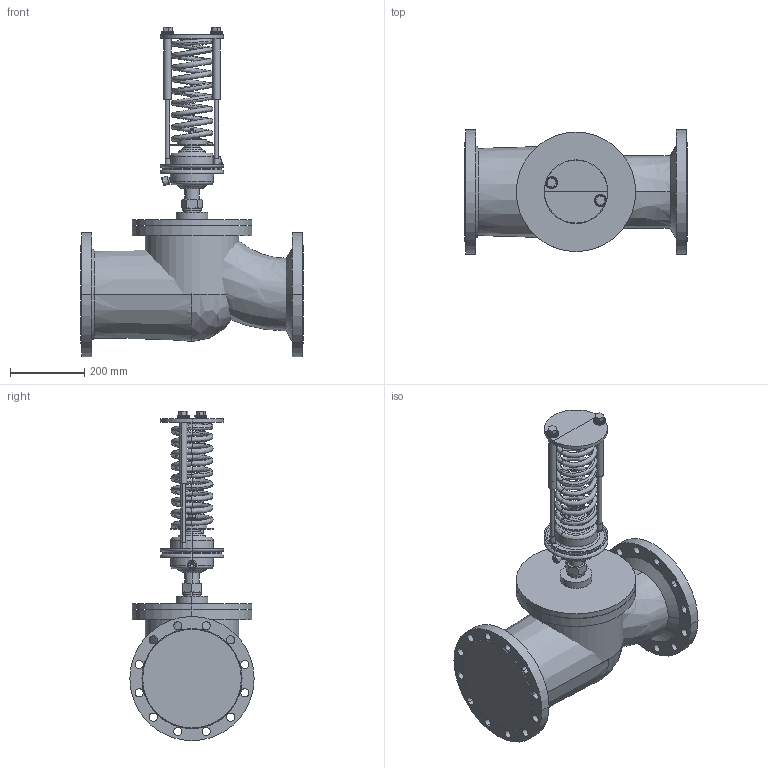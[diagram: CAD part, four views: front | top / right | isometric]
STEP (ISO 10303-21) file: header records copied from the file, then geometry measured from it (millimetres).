
FILE_DESCRIPTION(/* description */ (''),/* implementation_level */ '2;1');
FILE_NAME(/* name */ 'ETM_Регулятор давления_УРРД_НЗ_РД_DN200 0.1—0.6 МПа',/* time_stamp */ '2026-04-24T18:38:36+03:00',/* author */ (''),/* organization */ (''),/* preprocessor_version */ 'ST-DEVELOPER v20',/* originating_system */ '',/* authorisation */ '');
FILE_SCHEMA (('AP242_MANAGED_MODEL_BASED_3D_ENGINEERING_MIM_LF { 1 0 10303 442 1 1 4 }'));
Length unit declared in the file: millimetre
Products named in the file (13): TopLevelAssembly; Выдавливание; Переход; Выдавливание_
1; Переход_1; Переход_2; Переход_3; Объемная геометрия 
присоединена; Выдавливание_
2; Выдавливание_
3; Объемная геометрия 
присоединена_1; Выдавливание_
4; Пружина красная
Assembly tree (12 placements, depth 2):
  TopLevelAssembly
    Выдавливание
    Переход
    Выдавливание_
1
    Переход_1
    Переход_2
    Переход_3
    Объемная геометрия 
присоединена
    Выдавливание_
2
    Выдавливание_
3
    Объемная геометрия 
присоединена_1
    Выдавливание_
4
    Пружина красная
Bounding box: 600 x 335 x 888.35 mm (x, y, z)
Volume: 45669189.6 mm3; surface area: 2452519.4 mm2
Topology: 31 solids, 31 shells, 538 faces, 1101 edges, 605 vertices
Faces by surface type: plane 181, bspline 177, cylinder 170, cone 10
Entity records: 17318 total; most frequent: CARTESIAN_POINT 5461, DIRECTION 2505, ORIENTED_EDGE 2198, EDGE_CURVE 1099, AXIS2_PLACEMENT_3D 1054, CIRCLE 667, VERTEX_POINT 605, EDGE_LOOP 592
